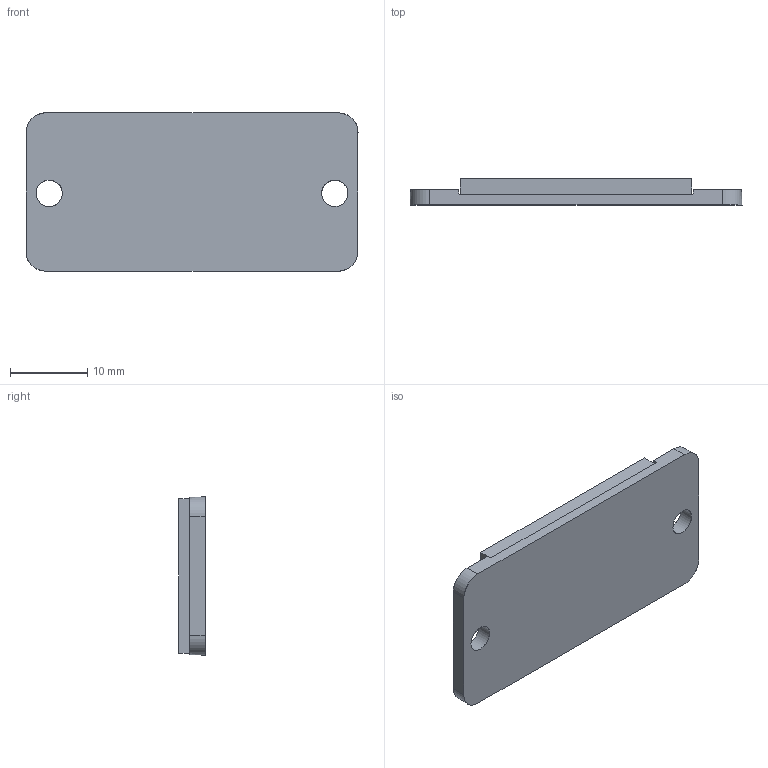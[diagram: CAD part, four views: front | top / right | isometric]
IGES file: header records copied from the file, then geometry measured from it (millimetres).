
Global section: file name: E:\lem\3DCAD_MTKS20x30_1.igs; native system: NX V8.5; preprocessor: SIEMENS PLM Software NX 8.5; date: 20170920.094730; units: millimetre
Bounding box: 43 x 3.4 x 20.5 mm (x, y, z)
Surface area: 3307 mm2 (no closed solid volume)
Topology: 0 solids, 0 shells, 31 faces, 196 edges, 196 vertices
Faces by surface type: bspline 31
